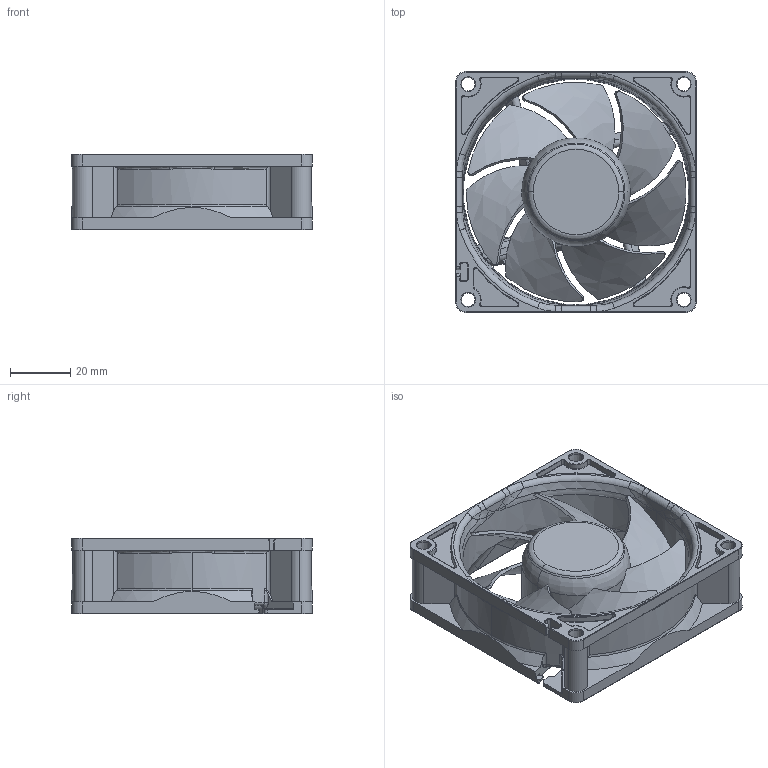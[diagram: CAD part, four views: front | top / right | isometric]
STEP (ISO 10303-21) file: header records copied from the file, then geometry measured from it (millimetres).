
FILE_DESCRIPTION (( 'STEP AP203' ), '1' );
FILE_NAME ('8025GA RIBBED.STEP', '2017-01-30T02:02:21', ( '' ), ( '' ), 'SwSTEP 2.0', 'SolidWorks 2016', '' );
FILE_SCHEMA (( 'CONFIG_CONTROL_DESIGN' ));
Length unit declared in the file: millimetre
Products named in the file (1): 8025GA RIBBED
Bounding box: 80 x 80 x 25.2 mm (x, y, z)
Volume: 55261.6 mm3; surface area: 34849.9 mm2
Topology: 1 solids, 1 shells, 736 faces, 1856 edges, 1089 vertices
Faces by surface type: cylinder 239, torus 180, bspline 156, plane 123, cone 38
Entity records: 27474 total; most frequent: CARTESIAN_POINT 10886, ORIENTED_EDGE 3640, DIRECTION 3364, EDGE_CURVE 1820, AXIS2_PLACEMENT_3D 1427, VERTEX_POINT 1089, CIRCLE 846, EDGE_LOOP 755
